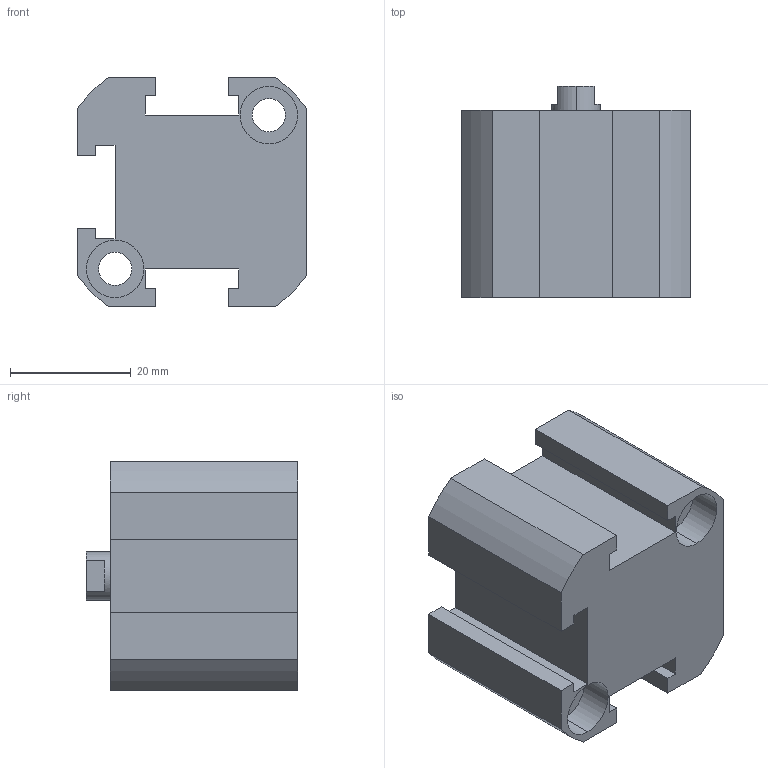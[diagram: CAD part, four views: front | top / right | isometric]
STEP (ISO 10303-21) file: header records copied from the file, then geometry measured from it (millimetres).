
FILE_DESCRIPTION (( 'STEP AP203' ), '1' );
FILE_NAME ('XC#1-20-10.STEP', '2016-05-23T07:38:22', ( '' ), ( '' ), 'SwSTEP 2.0', 'SolidWorks 2014', '' );
FILE_SCHEMA (( 'CONFIG_CONTROL_DESIGN' ));
Length unit declared in the file: millimetre
Products named in the file (1): XC#1-20-10
Bounding box: 38 x 35 x 38 mm (x, y, z)
Volume: 32167.8 mm3; surface area: 10268.9 mm2
Topology: 1 solids, 1 shells, 85 faces, 217 edges, 141 vertices
Faces by surface type: plane 44, cylinder 37, cone 4
Entity records: 2647 total; most frequent: DIRECTION 464, CARTESIAN_POINT 440, ORIENTED_EDGE 426, EDGE_CURVE 213, AXIS2_PLACEMENT_3D 165, VERTEX_POINT 141, VECTOR 134, LINE 134
